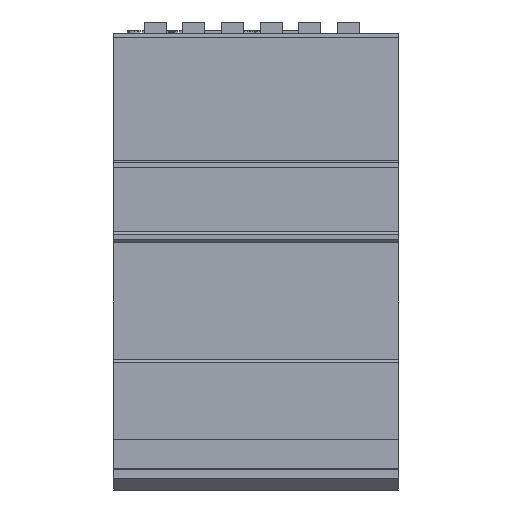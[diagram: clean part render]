
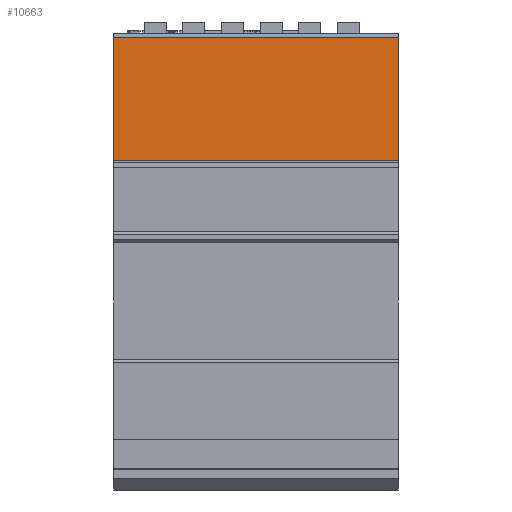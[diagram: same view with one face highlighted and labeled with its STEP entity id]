
A CAD part, front view. The second image highlights one B-rep face of the part: STEP entity #10663.
In plain terms, the highlighted planar face has unit normal (0, -1, 0).
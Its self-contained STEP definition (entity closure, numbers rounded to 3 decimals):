
#766=FACE_OUTER_BOUND('',#1386,.T.);
#1386=EDGE_LOOP('',(#8303,#8304,#8305,#8306));
#2510=LINE('',#17589,#3602);
#2560=LINE('',#17716,#3652);
#2561=LINE('',#17719,#3653);
#2562=LINE('',#17720,#3654);
#3602=VECTOR('',#12563,10.);
#3652=VECTOR('',#12677,10.);
#3653=VECTOR('',#12680,10.);
#3654=VECTOR('',#12681,10.);
#4683=VERTEX_POINT('',#17586);
#4684=VERTEX_POINT('',#17588);
#4729=VERTEX_POINT('',#17714);
#4730=VERTEX_POINT('',#17718);
#5994=EDGE_CURVE('',#4684,#4683,#2510,.T.);
#6054=EDGE_CURVE('',#4683,#4729,#2560,.T.);
#6055=EDGE_CURVE('',#4730,#4729,#2561,.T.);
#6056=EDGE_CURVE('',#4684,#4730,#2562,.T.);
#8303=ORIENTED_EDGE('',*,*,#5994,.T.);
#8304=ORIENTED_EDGE('',*,*,#6054,.T.);
#8305=ORIENTED_EDGE('',*,*,#6055,.F.);
#8306=ORIENTED_EDGE('',*,*,#6056,.F.);
#10053=PLANE('',#11183);
#10663=ADVANCED_FACE('',(#766),#10053,.T.);
#11183=AXIS2_PLACEMENT_3D('',#17717,#12678,#12679);
#12563=DIRECTION('',(0.,0.,-1.));
#12677=DIRECTION('',(1.,0.,0.));
#12678=DIRECTION('center_axis',(0.,-1.,0.));
#12679=DIRECTION('ref_axis',(0.,0.,-1.));
#12680=DIRECTION('',(0.,0.,-1.));
#12681=DIRECTION('',(1.,0.,0.));
#17586=CARTESIAN_POINT('',(0.,-18.036,19.982));
#17588=CARTESIAN_POINT('',(0.,-18.036,42.688));
#17589=CARTESIAN_POINT('',(0.,-18.036,42.688));
#17714=CARTESIAN_POINT('',(51.5,-18.036,19.982));
#17716=CARTESIAN_POINT('',(0.,-18.036,19.982));
#17717=CARTESIAN_POINT('Origin',(0.,-18.036,42.688));
#17718=CARTESIAN_POINT('',(51.5,-18.036,42.688));
#17719=CARTESIAN_POINT('',(51.5,-18.036,42.688));
#17720=CARTESIAN_POINT('',(0.,-18.036,42.688));
